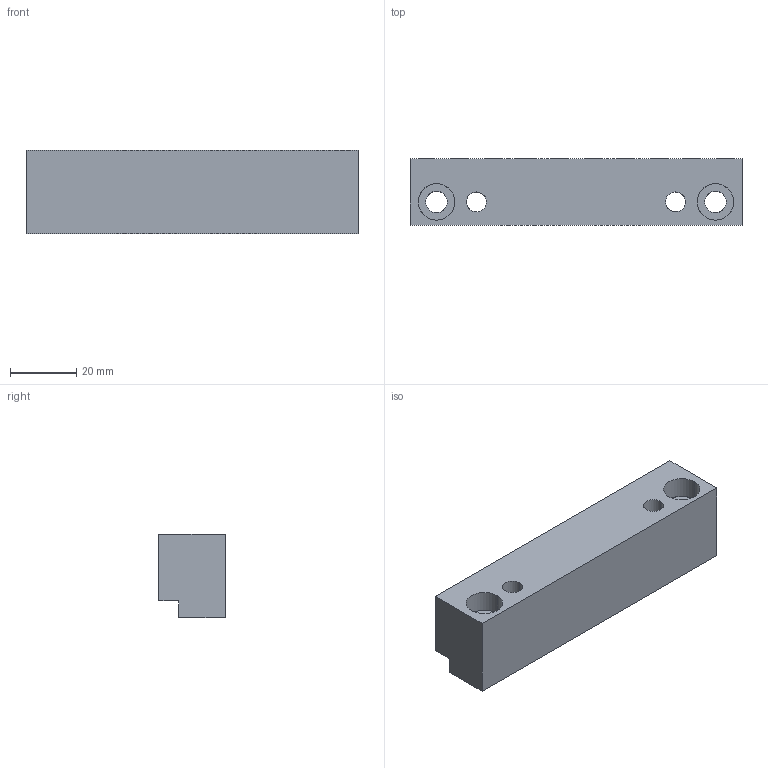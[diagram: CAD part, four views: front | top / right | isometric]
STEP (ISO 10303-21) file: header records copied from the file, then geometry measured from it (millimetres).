
FILE_DESCRIPTION(('CATIA V5 STEP Exchange'),'2;1');
FILE_NAME('C:\Users\Utente\Desktop\3D files G406\G40625100.stp','2020-04-22T11:26:05+00:00',('none'),('none'),'CATIA Version 5 Release 20 GA (IN-10)','CATIA V5 STEP AP203','none');
FILE_SCHEMA(('CONFIG_CONTROL_DESIGN'));
Length unit declared in the file: millimetre
Products named in the file (1): G40625100
Bounding box: 100 x 20 x 25 mm (x, y, z)
Surface area: 15129.8 mm2 (no closed solid volume)
Topology: 0 solids, 372 shells, 372 faces, 1570 edges, 1392 vertices
Faces by surface type: revolution 196, cylinder 128, plane 48
Entity records: 17576 total; most frequent: CARTESIAN_POINT 5963, DIRECTION 1834, ORIENTED_EDGE 1392, EDGE_CURVE 1392, VERTEX_POINT 1392, AXIS2_PLACEMENT_3D 779, VECTOR 684, LINE 684
